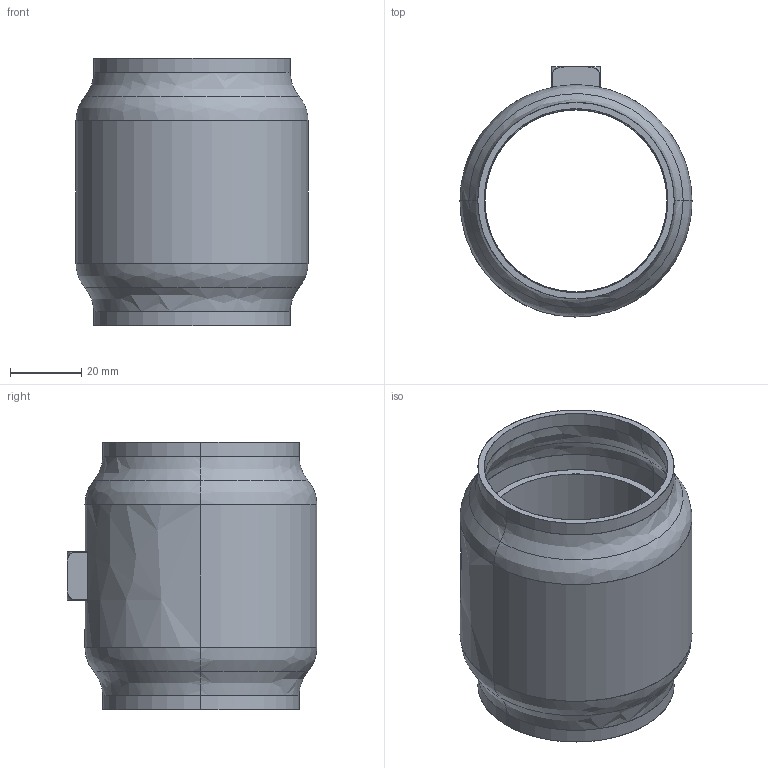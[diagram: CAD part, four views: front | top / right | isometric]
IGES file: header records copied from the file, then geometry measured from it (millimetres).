
Start section: SolidWorks IGES file using analytic representation for surfaces
Global section: file name: C:\HEMSIDA\cad\SLDPRT_2010\wn600\\wn600-50.igs; native system: SolidWorks 2010; preprocessor: SolidWorks 2010; author: Administrator; date: 101214.114959; units: millimetre
Bounding box: 65 x 70 x 75 mm (x, y, z)
Surface area: 42249.2 mm2 (no closed solid volume)
Topology: 0 solids, 0 shells, 56 faces, 1052 edges, 1052 vertices
Faces by surface type: bspline 29, revolution 27
